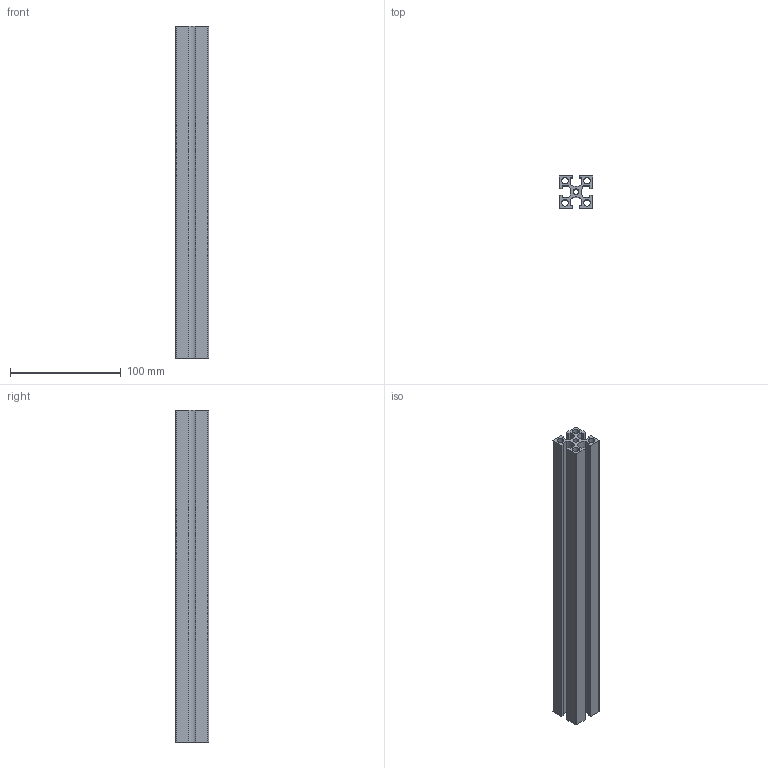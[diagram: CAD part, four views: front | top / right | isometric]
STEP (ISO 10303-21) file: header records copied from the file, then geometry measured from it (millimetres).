
FILE_DESCRIPTION (( 'STEP AP203' ), '1' );
FILE_NAME ('17-CG-3030-6.STEP', '2016-04-23T00:56:18', ( '' ), ( '' ), 'SwSTEP 2.0', 'SolidWorks 2013', '' );
FILE_SCHEMA (( 'CONFIG_CONTROL_DESIGN' ));
Length unit declared in the file: millimetre
Products named in the file (1): 17-CG-3030-6
Bounding box: 30 x 30 x 300 mm (x, y, z)
Volume: 120030.1 mm3; surface area: 94471.3 mm2
Topology: 1 solids, 1 shells, 53 faces, 153 edges, 102 vertices
Faces by surface type: plane 34, cylinder 19
Entity records: 1842 total; most frequent: CARTESIAN_POINT 309, ORIENTED_EDGE 306, DIRECTION 299, EDGE_CURVE 153, LINE 115, VECTOR 115, VERTEX_POINT 102, AXIS2_PLACEMENT_3D 92
